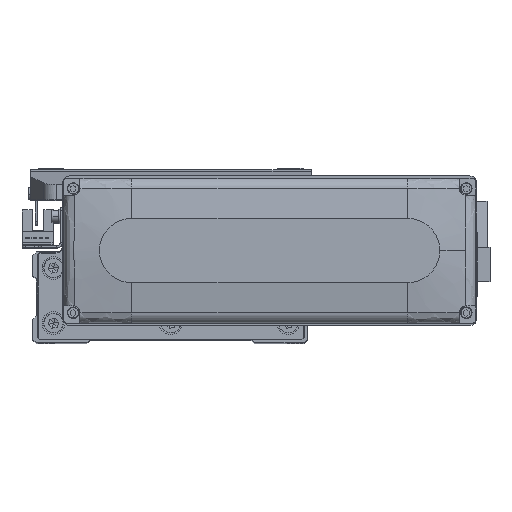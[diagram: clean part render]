
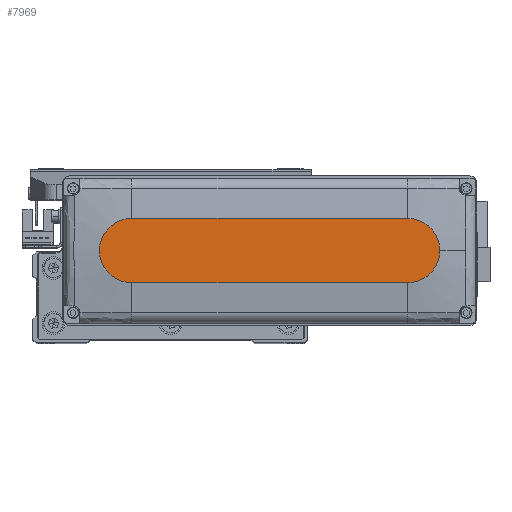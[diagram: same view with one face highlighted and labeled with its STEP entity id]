
A CAD part, top view. The second image highlights one B-rep face of the part: STEP entity #7969.
In plain terms, the highlighted planar face has unit normal (0, 0, 1).
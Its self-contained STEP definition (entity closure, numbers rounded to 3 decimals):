
#438 = ORIENTED_EDGE ( 'NONE', *, *, #21672, .T. ) ;
#911 = CARTESIAN_POINT ( 'NONE',  ( 60., 14., 28.5 ) ) ;
#2499 = CIRCLE ( 'NONE', #19616, 14. ) ;
#4471 = CARTESIAN_POINT ( 'NONE',  ( 60., -14., 28.5 ) ) ;
#5673 = EDGE_LOOP ( 'NONE', ( #35813, #29185, #25887, #37440, #438 ) ) ;
#7969 = ADVANCED_FACE ( 'NONE', ( #30296 ), #42544, .T. ) ;
#9205 = CARTESIAN_POINT ( 'NONE',  ( -60., 14., 28.5 ) ) ;
#9447 = LINE ( 'NONE', #9205, #43213 ) ;
#11980 = VERTEX_POINT ( 'NONE', #4471 ) ;
#12603 = DIRECTION ( 'NONE',  ( 0., 0., 1. ) ) ;
#15054 = EDGE_CURVE ( 'NONE', #17498, #11980, #41396, .T. ) ;
#15125 = EDGE_CURVE ( 'NONE', #47394, #43022, #9447, .T. ) ;
#16981 = DIRECTION ( 'NONE',  ( 0., 0., 1. ) ) ;
#17065 = DIRECTION ( 'NONE',  ( 1., 0., 0. ) ) ;
#17498 = VERTEX_POINT ( 'NONE', #35298 ) ;
#17507 = CARTESIAN_POINT ( 'NONE',  ( -60., 0., 28.5 ) ) ;
#17551 = AXIS2_PLACEMENT_3D ( 'NONE', #38381, #12603, #27587 ) ;
#19616 = AXIS2_PLACEMENT_3D ( 'NONE', #43787, #39394, #17065 ) ;
#19936 = CARTESIAN_POINT ( 'NONE',  ( 60., 0., 28.5 ) ) ;
#20493 = CARTESIAN_POINT ( 'NONE',  ( 74., 0., 28.5 ) ) ;
#21672 = EDGE_CURVE ( 'NONE', #39823, #47394, #34308, .T. ) ;
#25388 = AXIS2_PLACEMENT_3D ( 'NONE', #17507, #32222, #31975 ) ;
#25887 = ORIENTED_EDGE ( 'NONE', *, *, #15054, .T. ) ;
#27587 = DIRECTION ( 'NONE',  ( 1., 0., 0. ) ) ;
#29185 = ORIENTED_EDGE ( 'NONE', *, *, #43774, .T. ) ;
#30296 = FACE_OUTER_BOUND ( 'NONE', #5673, .T. ) ;
#31975 = DIRECTION ( 'NONE',  ( 1., 0., 0. ) ) ;
#32222 = DIRECTION ( 'NONE',  ( 0., 0., 1. ) ) ;
#34308 = CIRCLE ( 'NONE', #43723, 14. ) ;
#34891 = DIRECTION ( 'NONE',  ( 1., 0., 0. ) ) ;
#35298 = CARTESIAN_POINT ( 'NONE',  ( -60., -14., 28.5 ) ) ;
#35369 = VECTOR ( 'NONE', #45575, 1000. ) ;
#35813 = ORIENTED_EDGE ( 'NONE', *, *, #15125, .T. ) ;
#37440 = ORIENTED_EDGE ( 'NONE', *, *, #41001, .T. ) ;
#37487 = CARTESIAN_POINT ( 'NONE',  ( -60., -14., 28.5 ) ) ;
#38381 = CARTESIAN_POINT ( 'NONE',  ( 0., 0., 28.5 ) ) ;
#39394 = DIRECTION ( 'NONE',  ( 0., 0., 1. ) ) ;
#39490 = CIRCLE ( 'NONE', #25388, 14. ) ;
#39823 = VERTEX_POINT ( 'NONE', #20493 ) ;
#39871 = DIRECTION ( 'NONE',  ( -1., 0., 0. ) ) ;
#41001 = EDGE_CURVE ( 'NONE', #11980, #39823, #2499, .T. ) ;
#41028 = CARTESIAN_POINT ( 'NONE',  ( -60., 14., 28.5 ) ) ;
#41396 = LINE ( 'NONE', #37487, #35369 ) ;
#42544 = PLANE ( 'NONE',  #17551 ) ;
#43022 = VERTEX_POINT ( 'NONE', #41028 ) ;
#43213 = VECTOR ( 'NONE', #39871, 1000. ) ;
#43723 = AXIS2_PLACEMENT_3D ( 'NONE', #19936, #16981, #34891 ) ;
#43774 = EDGE_CURVE ( 'NONE', #43022, #17498, #39490, .T. ) ;
#43787 = CARTESIAN_POINT ( 'NONE',  ( 60., 0., 28.5 ) ) ;
#45575 = DIRECTION ( 'NONE',  ( 1., 0., 0. ) ) ;
#47394 = VERTEX_POINT ( 'NONE', #911 ) ;
